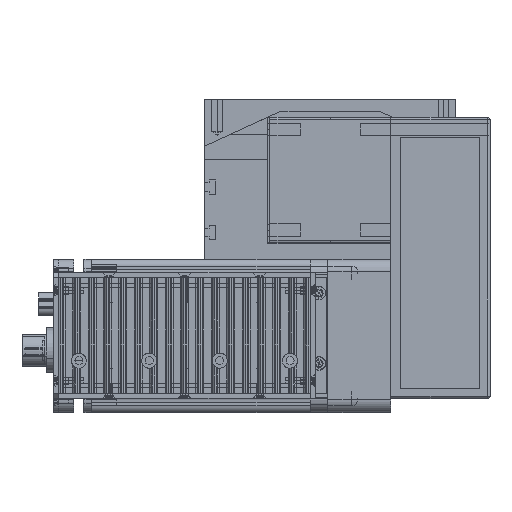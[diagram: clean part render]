
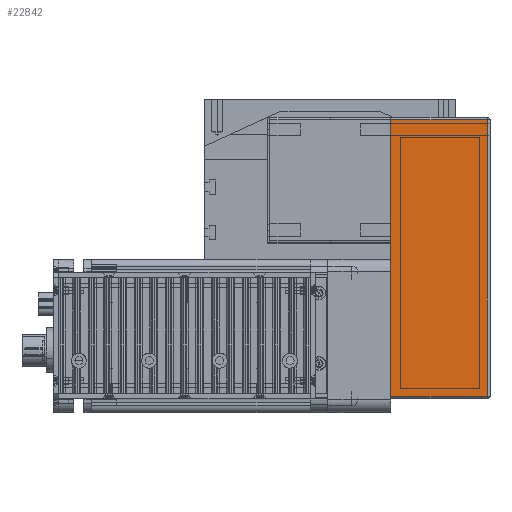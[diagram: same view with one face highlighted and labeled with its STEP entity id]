
A CAD part, top view. The second image highlights one B-rep face of the part: STEP entity #22842.
In plain terms, the highlighted planar face has unit normal (0, 0, 1) as drawn and (0, -1, 0) by its records, which use the part's own axes.
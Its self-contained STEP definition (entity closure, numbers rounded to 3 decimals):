
#22736 = VERTEX_POINT ( 'NONE', #42526 ) ;
#22738 = VERTEX_POINT ( 'NONE', #42518 ) ;
#22743 = EDGE_CURVE ( 'NONE', #22736, #22738, #42558, .T. ) ;
#22790 = EDGE_CURVE ( 'NONE', #22791, #22794, #42614, .T. ) ;
#22791 = VERTEX_POINT ( 'NONE', #42669 ) ;
#22794 = VERTEX_POINT ( 'NONE', #42663 ) ;
#22796 = EDGE_LOOP ( 'NONE', ( #22844, #22856, #22848, #22847 ) ) ;
#22842 = ADVANCED_FACE ( 'NONE', ( #42805 ), #42809, .F. ) ;
#22843 = EDGE_CURVE ( 'NONE', #22738, #22791, #42803, .T. ) ;
#22844 = ORIENTED_EDGE ( 'NONE', *, *, #22743, .F. ) ;
#22847 = ORIENTED_EDGE ( 'NONE', *, *, #22843, .F. ) ;
#22848 = ORIENTED_EDGE ( 'NONE', *, *, #22790, .F. ) ;
#22856 = ORIENTED_EDGE ( 'NONE', *, *, #22860, .T. ) ;
#22860 = EDGE_CURVE ( 'NONE', #22736, #22794, #42792, .T. ) ;
#40993 = DIRECTION ( 'NONE',  ( 0., 0., -1. ) ) ;
#42518 = CARTESIAN_POINT ( 'NONE',  ( -49., -25., 38.5 ) ) ;
#42526 = CARTESIAN_POINT ( 'NONE',  ( -49., -25., 0. ) ) ;
#42555 = DIRECTION ( 'NONE',  ( 0., 0., 1. ) ) ;
#42556 = VECTOR ( 'NONE', #42555, 1000. ) ;
#42557 = CARTESIAN_POINT ( 'NONE',  ( -49., -25., 39.5 ) ) ;
#42558 = LINE ( 'NONE', #42557, #42556 ) ;
#42605 = VECTOR ( 'NONE', #40993, 1000. ) ;
#42613 = CARTESIAN_POINT ( 'NONE',  ( 61., -25., 39.5 ) ) ;
#42614 = LINE ( 'NONE', #42613, #42605 ) ;
#42663 = CARTESIAN_POINT ( 'NONE',  ( 61., -25., 0. ) ) ;
#42669 = CARTESIAN_POINT ( 'NONE',  ( 61., -25., 38.5 ) ) ;
#42740 = DIRECTION ( 'NONE',  ( 0., 1., 0. ) ) ;
#42774 = AXIS2_PLACEMENT_3D ( 'NONE', #42778, #42740, #42801 ) ;
#42778 = CARTESIAN_POINT ( 'NONE',  ( -50., -25., 39.5 ) ) ;
#42787 = CARTESIAN_POINT ( 'NONE',  ( -50., -25., 0. ) ) ;
#42792 = LINE ( 'NONE', #42787, #42828 ) ;
#42798 = DIRECTION ( 'NONE',  ( 1., 0., 0. ) ) ;
#42799 = VECTOR ( 'NONE', #42798, 1000. ) ;
#42801 = DIRECTION ( 'NONE',  ( 0., 0., 1. ) ) ;
#42802 = CARTESIAN_POINT ( 'NONE',  ( -50., -25., 38.5 ) ) ;
#42803 = LINE ( 'NONE', #42802, #42799 ) ;
#42805 = FACE_OUTER_BOUND ( 'NONE', #22796, .T. ) ;
#42809 = PLANE ( 'NONE',  #42774 ) ;
#42827 = DIRECTION ( 'NONE',  ( 1., 0., 0. ) ) ;
#42828 = VECTOR ( 'NONE', #42827, 1000. ) ;
